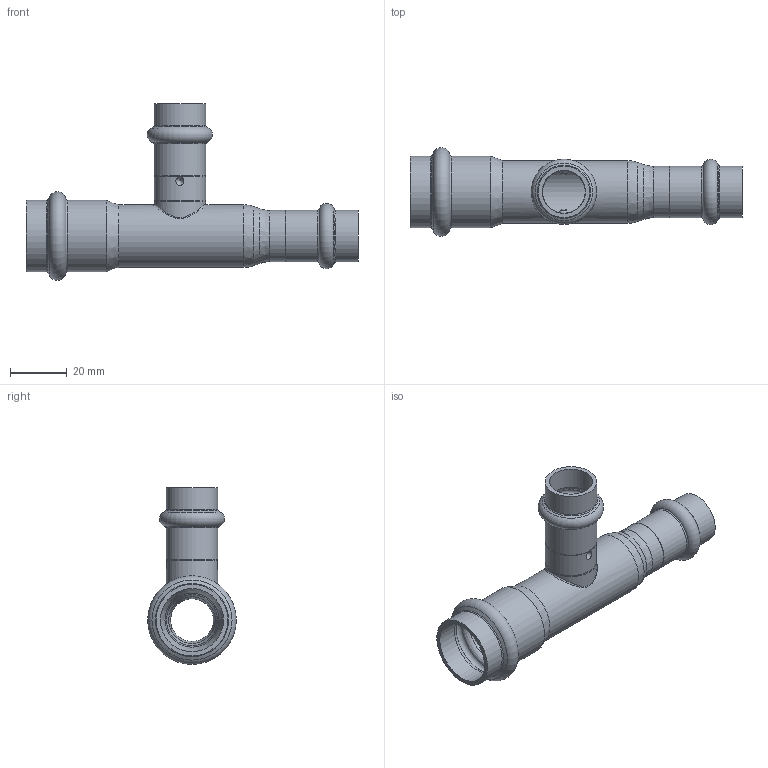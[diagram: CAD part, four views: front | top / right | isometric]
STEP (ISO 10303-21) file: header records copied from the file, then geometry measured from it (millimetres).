
FILE_DESCRIPTION((''),'2;1');
FILE_NAME('G:\Nirosan-Schmiedefeld\Technics\CAD\001 Serie 9.000\022\69130221515H(0).stp','2017-07-13T10:50:20',('herberg'),(''),'Autodesk Inventor 2009','Autodesk Inventor 2009','');
FILE_SCHEMA(('AUTOMOTIVE_DESIGN { 1 0 10303 214 1 1 1 1 }'));
Length unit declared in the file: millimetre
Products named in the file (3): 69130221515H(0); 69LM221515P_S3(0); 69HM1518P(0)
Assembly tree (2 placements, depth 2):
  69130221515H(0)
    69LM221515P_S3(0)
    69HM1518P(0)
Bounding box: 116.5 x 31.09 x 62.05 mm (x, y, z)
Volume: 14772 mm3; surface area: 20114.2 mm2
Topology: 2 solids, 2 shells, 69 faces, 155 edges, 90 vertices
Faces by surface type: cylinder 20, bspline 18, cone 18, torus 6, plane 5, sphere 2
Full cylindrical faces by diameter (mm): 15 x3, 15.15 x4, 18 x3, 18.15 x4, 19 x1, 22 x1, 22.15 x2, 25.15 x2
Entity records: 3526 total; most frequent: CARTESIAN_POINT 2310, DIRECTION 240, ORIENTED_EDGE 154, EDGE_LOOP 136, AXIS2_PLACEMENT_3D 120, EDGE_CURVE 77, VERTEX_POINT 73, FACE_OUTER_BOUND 69
